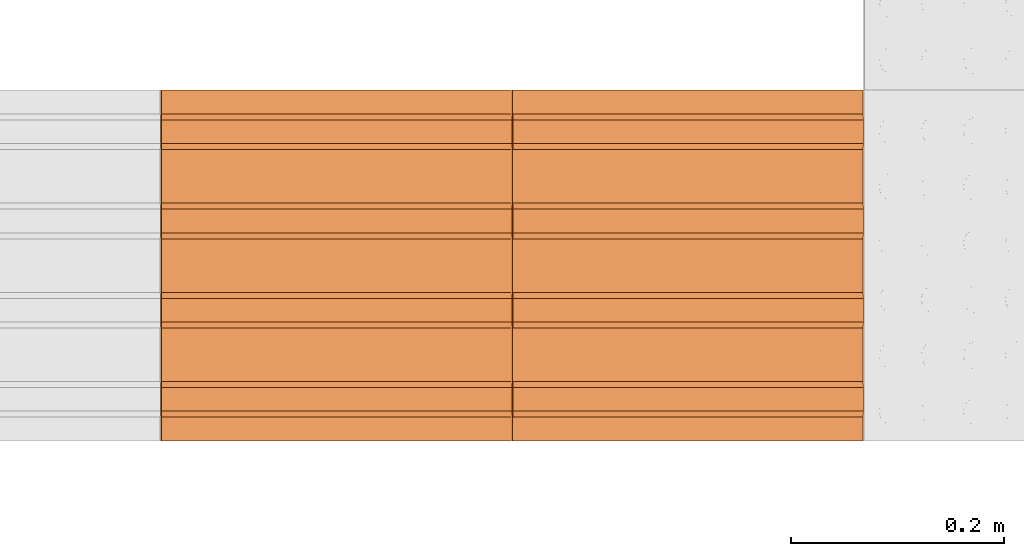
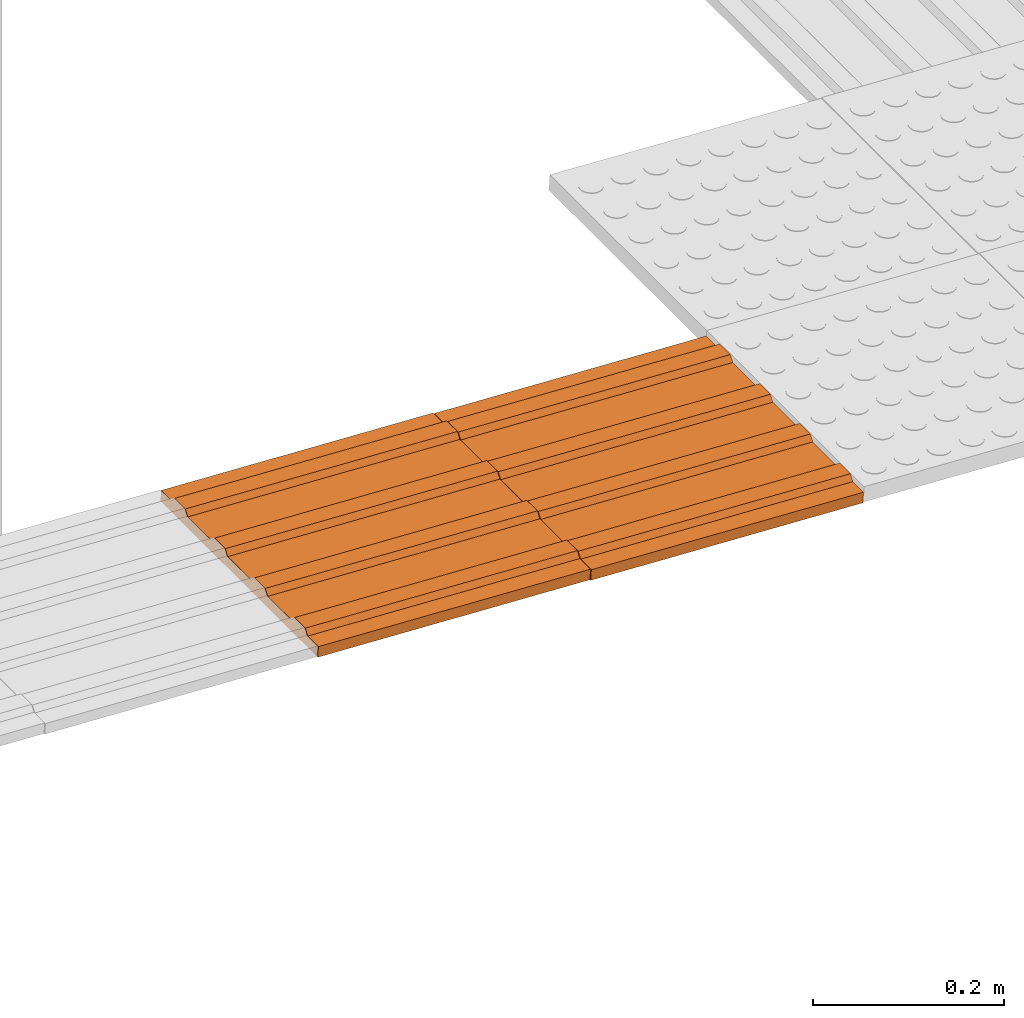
# One storey, part 172 of 237: 2 proxies.
"""IFC2X3 building model written with IfcOpenShell, lengths in millimetres."""

from ifc_helpers import new_model, entity, si_unit, converted_unit, derived_unit, money_unit, direction, frame, origin_with_axes, place, context, subcontext, project, spatial, open_shell, surface_model, source, transform, mapped, type_object, element, save


model = new_model("IFC2X3")

# Units and contexts
model_context = context("Model", 3, precision=0.01, world=origin_with_axes(), true_north=direction((0.0, 1.0)))
body_context = subcontext(model_context, "Body", "Model", "MODEL_VIEW")
ifc_project = project(units=[si_unit("LENGTHUNIT", "METRE", prefix="MILLI"), si_unit("AREAUNIT", "SQUARE_METRE"), si_unit("VOLUMEUNIT", "CUBIC_METRE"), converted_unit("PLANEANGLEUNIT", "DEGREE", entity("IfcPlaneAngleMeasure", 0.0174532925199), si_unit("PLANEANGLEUNIT", "RADIAN"), dimensions=[0, 0, 0, 0, 0, 0, 0]), money_unit("USD"), converted_unit("TIMEUNIT", "Year", entity("IfcTimeMeasure", 31556926.0), si_unit("TIMEUNIT", "SECOND"), dimensions=[0, 0, 1, 0, 0, 0, 0]), si_unit("MASSUNIT", "GRAM", prefix="KILO"), si_unit("THERMODYNAMICTEMPERATUREUNIT", "DEGREE_CELSIUS"), si_unit("LUMINOUSINTENSITYUNIT", "LUMEN"), si_unit("ENERGYUNIT", "JOULE", prefix="MEGA"), derived_unit("THERMALCONDUCTANCEUNIT", [(si_unit("POWERUNIT", "WATT"), 1), (si_unit("LENGTHUNIT", "METRE"), -1), (si_unit("THERMODYNAMICTEMPERATUREUNIT", "KELVIN"), -1)]), derived_unit("SPECIFICHEATCAPACITYUNIT", [(si_unit("ENERGYUNIT", "JOULE"), 1), (si_unit("MASSUNIT", "GRAM", prefix="KILO"), -1), (si_unit("THERMODYNAMICTEMPERATUREUNIT", "KELVIN"), -1)]), derived_unit("MASSDENSITYUNIT", [(si_unit("MASSUNIT", "GRAM", prefix="KILO"), 1), (si_unit("VOLUMEUNIT", "CUBIC_METRE"), -1)])], contexts=[model_context])

# Site, building, storey
site_placement = place(None, origin_with_axes())
site = spatial("IfcSite", under=ifc_project, at=site_placement, Name="Local", CompositionType="ELEMENT")
building_placement = place(site_placement, origin_with_axes())
building = spatial("IfcBuilding", under=site, at=building_placement, Name="Construção", CompositionType="ELEMENT")
storey_placement = place(building_placement, origin_with_axes())
storey = spatial("IfcBuildingStorey", under=building, at=storey_placement, Name="Pavimento Térreo", CompositionType="ELEMENT", Elevation=0.0)

# Proxies
building_element_proxy_type = type_object("IfcBuildingElementProxyType", Name="Piso Direcional 27", PredefinedType="NOTDEFINED")
shared_shape = source(origin_with_axes(), body_context, "Body", "SurfaceModel", [
    surface_model("IfcShellBasedSurfaceModel", [(-0.196792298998, -47.258225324, 4.02371099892), (329.409233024, -47.258225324, 20.1441350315), (329.083567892, -41.665004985, 26.8028426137), (-0.522457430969, -41.665004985, 10.6824185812)], [open_shell([[[0, 1, 2, 3]]])]),
    surface_model("IfcShellBasedSurfaceModel", [(330.060563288, -153.529411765, 6.82671986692), (330.060563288, 176.470588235, 6.82671986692), (329.409233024, 176.470588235, 20.1441350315), (329.409233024, 154.097706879, 20.1441350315), (329.083567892, 148.50448654, 26.8028426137), (329.083567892, 126.131605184, 26.8028426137), (329.409233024, 120.538384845, 20.1441350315), (329.409233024, 70.1994017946, 20.1441350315), (329.083567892, 64.6061814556, 26.8028426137), (329.083567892, 42.2333000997, 26.8028426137), (329.409233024, 36.6400797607, 20.1441350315), (329.409233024, -13.6989032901, 20.1441350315), (329.083567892, -19.2921236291, 26.8028426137), (329.083567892, -41.665004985, 26.8028426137), (329.409233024, -47.258225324, 20.1441350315), (329.409233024, -97.5972083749, 20.1441350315), (329.083567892, -103.190428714, 26.8028426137), (329.083567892, -125.56331007, 26.8028426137), (329.409233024, -131.156530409, 20.1441350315), (329.409233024, -153.529411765, 20.1441350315)], [open_shell([[[0, 1, 2, 3, 4, 5, 6, 7, 8, 9, 10, 11, 12, 13, 14, 15, 16, 17, 18, 19]]])]),
    surface_model("IfcShellBasedSurfaceModel", [(-0.522457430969, -19.2921236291, 10.6824185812), (329.083567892, -19.2921236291, 26.8028426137), (329.409233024, -13.6989032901, 20.1441350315), (-0.196792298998, -13.6989032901, 4.02371099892)], [open_shell([[[0, 1, 2, 3]]])]),
    surface_model("IfcShellBasedSurfaceModel", [(-0.522457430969, -103.190428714, 10.6824185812), (329.083567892, -103.190428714, 26.8028426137), (329.409233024, -97.5972083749, 20.1441350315), (-0.196792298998, -97.5972083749, 4.02371099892)], [open_shell([[[0, 1, 2, 3]]])]),
    surface_model("IfcShellBasedSurfaceModel", [(-0.522457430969, 64.6061814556, 10.6824185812), (329.083567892, 64.6061814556, 26.8028426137), (329.409233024, 70.1994017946, 20.1441350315), (-0.196792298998, 70.1994017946, 4.02371099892)], [open_shell([[[0, 1, 2, 3]]])]),
    surface_model("IfcShellBasedSurfaceModel", [(-0.196792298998, 36.6400797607, 4.02371099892), (329.409233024, 36.6400797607, 20.1441350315), (329.083567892, 42.2333000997, 26.8028426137), (-0.522457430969, 42.2333000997, 10.6824185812)], [open_shell([[[0, 1, 2, 3]]])]),
    surface_model("IfcShellBasedSurfaceModel", [(-0.196792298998, -131.156530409, 4.02371099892), (329.409233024, -131.156530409, 20.1441350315), (329.083567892, -125.56331007, 26.8028426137), (-0.522457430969, -125.56331007, 10.6824185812)], [open_shell([[[0, 1, 2, 3]]])]),
    surface_model("IfcShellBasedSurfaceModel", [(-0.196792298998, 176.470588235, 4.02371099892), (-0.196792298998, 154.097706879, 4.02371099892), (329.409233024, 154.097706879, 20.1441350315), (329.409233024, 176.470588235, 20.1441350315)], [open_shell([[[0, 1, 2, 3]]])]),
    surface_model("IfcShellBasedSurfaceModel", [(-0.196792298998, 120.538384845, 4.02371099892), (329.409233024, 120.538384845, 20.1441350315), (329.083567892, 126.131605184, 26.8028426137), (-0.522457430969, 126.131605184, 10.6824185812)], [open_shell([[[0, 1, 2, 3]]])]),
    surface_model("IfcShellBasedSurfaceModel", [(-0.522457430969, 148.50448654, 10.6824185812), (329.083567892, 148.50448654, 26.8028426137), (329.409233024, 154.097706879, 20.1441350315), (-0.196792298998, 154.097706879, 4.02371099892)], [open_shell([[[0, 1, 2, 3]]])]),
    surface_model("IfcShellBasedSurfaceModel", [(-0.196792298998, 36.6400797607, 4.02371099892), (-0.196792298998, -13.6989032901, 4.02371099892), (329.409233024, -13.6989032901, 20.1441350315), (329.409233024, 36.6400797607, 20.1441350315)], [open_shell([[[0, 1, 2, 3]]])]),
    surface_model("IfcShellBasedSurfaceModel", [(-0.196792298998, 120.538384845, 4.02371099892), (-0.196792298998, 70.1994017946, 4.02371099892), (329.409233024, 70.1994017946, 20.1441350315), (329.409233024, 120.538384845, 20.1441350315)], [open_shell([[[0, 1, 2, 3]]])]),
    surface_model("IfcShellBasedSurfaceModel", [(-0.522457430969, 148.50448654, 10.6824185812), (-0.522457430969, 126.131605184, 10.6824185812), (329.083567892, 126.131605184, 26.8028426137), (329.083567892, 148.50448654, 26.8028426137)], [open_shell([[[0, 1, 2, 3]]])]),
    surface_model("IfcShellBasedSurfaceModel", [(-0.196792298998, 120.538384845, 4.02371099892), (-0.522457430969, 126.131605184, 10.6824185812), (-0.522457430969, 148.50448654, 10.6824185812), (-0.196792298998, 154.097706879, 4.02371099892), (-0.196792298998, 176.470588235, 4.02371099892), (0.454537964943, 176.470588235, -9.29370416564), (0.454537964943, -153.529411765, -9.29370416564), (-0.196792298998, -153.529411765, 4.02371099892), (-0.196792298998, -131.156530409, 4.02371099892), (-0.522457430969, -125.56331007, 10.6824185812), (-0.522457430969, -103.190428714, 10.6824185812), (-0.196792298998, -97.5972083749, 4.02371099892), (-0.196792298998, -47.258225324, 4.02371099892), (-0.522457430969, -41.665004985, 10.6824185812), (-0.522457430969, -19.2921236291, 10.6824185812), (-0.196792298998, -13.6989032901, 4.02371099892), (-0.196792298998, 36.6400797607, 4.02371099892), (-0.522457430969, 42.2333000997, 10.6824185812), (-0.522457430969, 64.6061814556, 10.6824185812), (-0.196792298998, 70.1994017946, 4.02371099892)], [open_shell([[[0, 1, 2, 3, 4, 5, 6, 7, 8, 9, 10, 11, 12, 13, 14, 15, 16, 17, 18, 19]]])]),
    surface_model("IfcShellBasedSurfaceModel", [(329.083567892, -41.665004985, 26.8028426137), (329.083567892, -19.2921236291, 26.8028426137), (-0.522457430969, -19.2921236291, 10.6824185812), (-0.522457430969, -41.665004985, 10.6824185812)], [open_shell([[[0, 1, 2, 3]]])]),
    surface_model("IfcShellBasedSurfaceModel", [(-0.196792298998, -47.258225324, 4.02371099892), (-0.196792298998, -97.5972083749, 4.02371099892), (329.409233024, -97.5972083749, 20.1441350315), (329.409233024, -47.258225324, 20.1441350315)], [open_shell([[[0, 1, 2, 3]]])]),
    surface_model("IfcShellBasedSurfaceModel", [(329.083567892, 42.2333000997, 26.8028426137), (329.083567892, 64.6061814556, 26.8028426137), (-0.522457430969, 64.6061814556, 10.6824185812), (-0.522457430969, 42.2333000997, 10.6824185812)], [open_shell([[[0, 1, 2, 3]]])]),
    surface_model("IfcShellBasedSurfaceModel", [(329.083567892, -125.56331007, 26.8028426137), (329.083567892, -103.190428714, 26.8028426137), (-0.522457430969, -103.190428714, 10.6824185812), (-0.522457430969, -125.56331007, 10.6824185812)], [open_shell([[[0, 1, 2, 3]]])]),
    surface_model("IfcShellBasedSurfaceModel", [(330.060563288, 176.470588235, 6.82671986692), (0.454537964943, 176.470588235, -9.29370416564), (-0.196792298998, 176.470588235, 4.02371099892), (329.409233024, 176.470588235, 20.1441350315)], [open_shell([[[0, 1, 2, 3]]])]),
    surface_model("IfcShellBasedSurfaceModel", [(330.060563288, -153.529411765, 6.82671986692), (0.454537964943, -153.529411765, -9.29370416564), (0.454537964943, 176.470588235, -9.29370416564), (330.060563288, 176.470588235, 6.82671986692)], [open_shell([[[0, 1, 2, 3]]])]),
    surface_model("IfcShellBasedSurfaceModel", [(329.409233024, -153.529411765, 20.1441350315), (329.409233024, -131.156530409, 20.1441350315), (-0.196792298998, -131.156530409, 4.02371099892), (-0.196792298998, -153.529411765, 4.02371099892)], [open_shell([[[0, 1, 2, 3]]])]),
    surface_model("IfcShellBasedSurfaceModel", [(0.454537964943, -153.529411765, -9.29370416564), (330.060563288, -153.529411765, 6.82671986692), (329.409233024, -153.529411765, 20.1441350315), (-0.196792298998, -153.529411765, 4.02371099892)], [open_shell([[[0, 1, 2, 3]]])]),
])
for number, where, z_axis, x_axis, name in (
    (1, (83310.395521, 10834.0941893, -5295.32250114), (0.0, 0.0, 1.0), (-1.0, 0.0, 0.0), "Objeto-0055"),
    (2, (83641.0181402, 10834.0941893, -5312.58755857), (0.0, 0.0, 1.0), (-1.0, 0.0, 0.0), "Objeto-0055"),
):
    element("IfcBuildingElementProxy", number, at=place(storey_placement, frame(where, z_axis=z_axis, x_axis=x_axis)), inside=storey, type_object=building_element_proxy_type, Name=name, context=body_context, shape_type="MappedRepresentation", body=[
        mapped(shared_shape, transform((0.0, 0.0, 0.0))),
    ])

save(model, "model.ifc")
